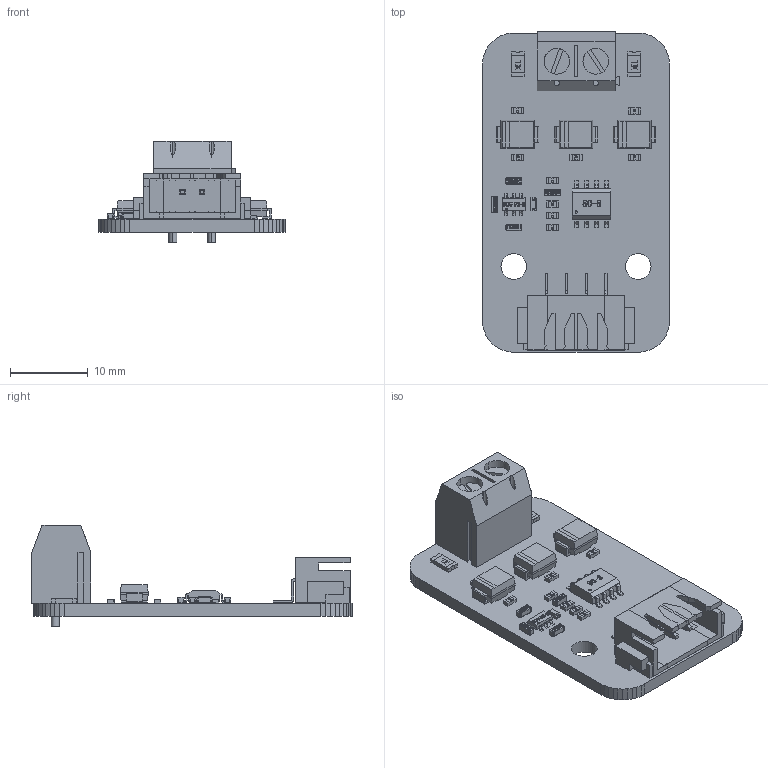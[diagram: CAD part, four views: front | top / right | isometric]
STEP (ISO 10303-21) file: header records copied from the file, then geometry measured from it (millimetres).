
FILE_DESCRIPTION(('Open CASCADE Model'),'2;1');
FILE_NAME('Open CASCADE Shape Model','2023-06-14T17:33:33',('Author'),( 'Open CASCADE'),'Open CASCADE STEP processor 6.5','Open CASCADE 6.5' ,'Unknown');
FILE_SCHEMA(('AUTOMOTIVE_DESIGN { 1 0 10303 214 1 1 1 1 }'));
Length unit declared in the file: millimetre
Products named in the file (34): PCB; Board; R1; 0603_R; U2; SO-8; U1; User_Library-SOT-23-6-3; P1; 4pin-2.5; C4; User_Library-0603(1608M)_Cap; C3; C2; C1; P2; User_Library-Terminal-Screw-3A-2way; D1; LED0603(R); D2; User_Library-DO-214AA_SMB; R2; R3; D3; D4; F1; User_Library-nona_SMD075F; F2; R4; R5; R6; R7; R8; R9
Assembly tree (47 placements, depth 3):
  PCB
    Board
    R1
      0603_R
    U2
      SO-8
    U1
      User_Library-SOT-23-6-3
    P1
      4pin-2.5
    C4
      User_Library-0603(1608M)_Cap
    C3
      User_Library-0603(1608M)_Cap
    C2
      User_Library-0603(1608M)_Cap
    C1
      User_Library-0603(1608M)_Cap
    P2
      User_Library-Terminal-Screw-3A-2way
    D1
      LED0603(R)
    D2
      User_Library-DO-214AA_SMB
    R2
      0603_R
    R3
      0603_R
    D3
      User_Library-DO-214AA_SMB
    D4
      User_Library-DO-214AA_SMB
    F1
      User_Library-nona_SMD075F
    F2
      User_Library-nona_SMD075F
    R4
      0603_R
    R5
      0603_R
    R6
      0603_R
    R7
      0603_R
    R8
      0603_R
    R9
      0603_R
Bounding box: 24.02 x 41.18 x 13 mm (x, y, z)
Volume: 2629.2 mm3; surface area: 4510.8 mm2
Topology: 41 solids, 41 shells, 1919 faces, 5094 edges, 3301 vertices
Faces by surface type: plane 1238, bspline 405, cylinder 227, extrusion 45, sphere 4
Full cylindrical faces by diameter (mm): 1.2 x2, 3.3 x2
Entity records: 91819 total; most frequent: CARTESIAN_POINT 29540, DIRECTION 8945, VECTOR 6292, LINE 6287, ORIENTED_EDGE 5962, PCURVE 5962, DEFINITIONAL_REPRESENTATION 5962, EDGE_CURVE 2981
